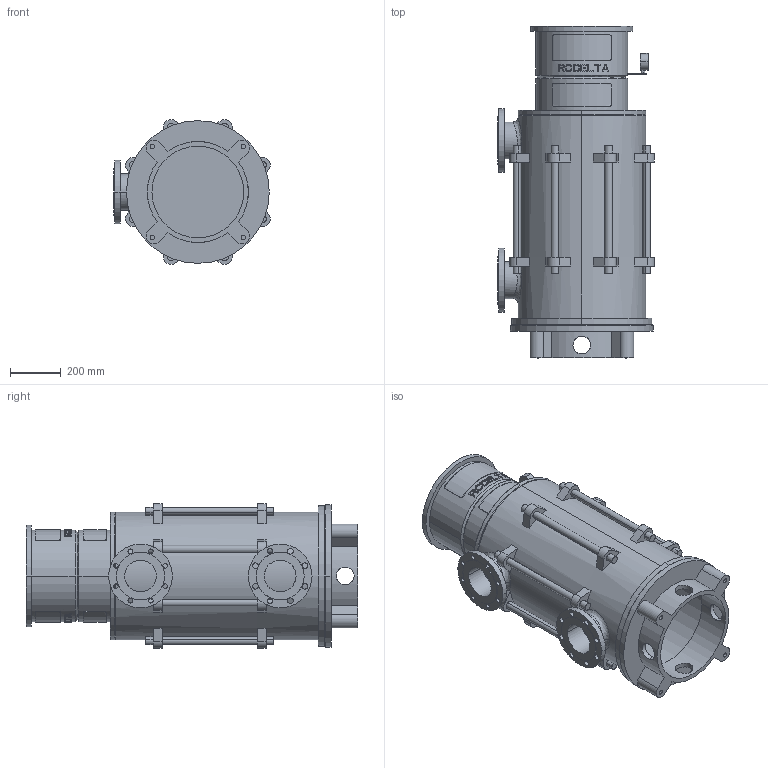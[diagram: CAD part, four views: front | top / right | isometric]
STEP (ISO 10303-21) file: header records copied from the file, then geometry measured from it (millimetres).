
FILE_DESCRIPTION((''),'2;1');
FILE_NAME('LS5_4TR_0GR_TOT_30KW','2023-08-08T',('Lyritlocal'),(''),'PRO/ENGINEER BY PARAMETRIC TECHNOLOGY CORPORATION, 2016360','PRO/ENGINEER BY PARAMETRIC TECHNOLOGY CORPORATION, 2016360','');
FILE_SCHEMA(('CONFIG_CONTROL_DESIGN'));
Length unit declared in the file: millimetre
Products named in the file (1): LS5_4TR_0GR_TOT_30KW
Bounding box: 614.04 x 1302 x 568.08 mm (x, y, z)
Volume: 37520298.4 mm3; surface area: 5384781.8 mm2
Topology: 3 solids, 7 shells, 672 faces, 1747 edges, 1158 vertices
Faces by surface type: plane 414, cylinder 242, cone 12, bspline 4
Entity records: 22036 total; most frequent: CARTESIAN_POINT 5592, ORIENTED_EDGE 3478, DIRECTION 3269, EDGE_CURVE 1747, AXIS2_PLACEMENT_3D 1241, VERTEX_POINT 1158, EDGE_LOOP 809, VECTOR 787
